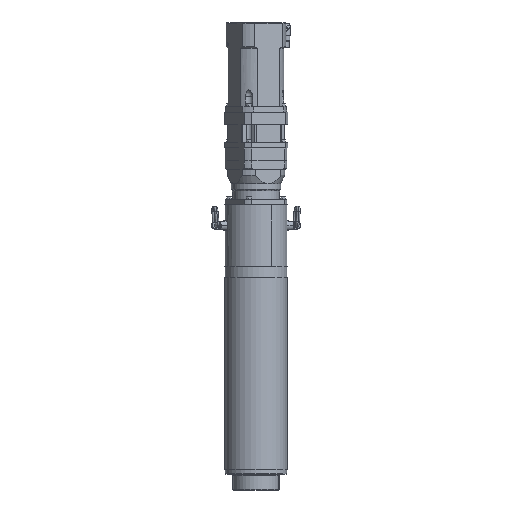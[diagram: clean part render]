
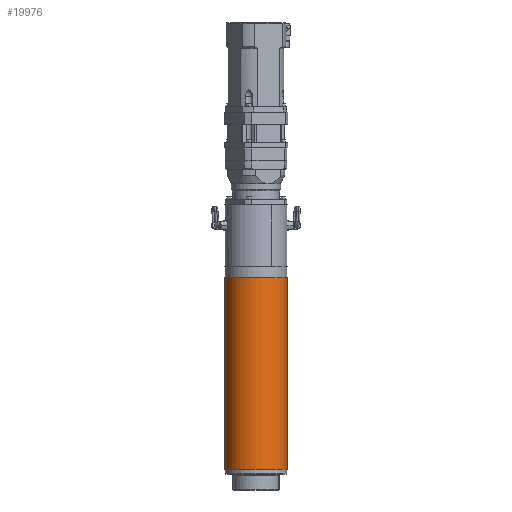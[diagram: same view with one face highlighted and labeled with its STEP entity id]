
A CAD part, front view. The second image highlights one B-rep face of the part: STEP entity #19976.
In plain terms, the highlighted cylindrical face has radius 120 mm (diameter 240 mm), a partial arc.
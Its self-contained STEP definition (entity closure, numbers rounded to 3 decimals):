
#400 = EDGE_CURVE ( 'NONE', #43105, #29189, #30935, .T. ) ;
#895 = EDGE_CURVE ( 'NONE', #33168, #34871, #25542, .T. ) ;
#3550 = DIRECTION ( 'NONE',  ( -1., 0., 0. ) ) ;
#7056 = CARTESIAN_POINT ( 'NONE',  ( 120., 0., 0. ) ) ;
#7583 = CARTESIAN_POINT ( 'NONE',  ( -120., 0., 0. ) ) ;
#8248 = CARTESIAN_POINT ( 'NONE',  ( 120., 0., 20. ) ) ;
#11393 = DIRECTION ( 'NONE',  ( 0., 0., -1. ) ) ;
#11971 = CARTESIAN_POINT ( 'NONE',  ( -120., 0., 20. ) ) ;
#12657 = ORIENTED_EDGE ( 'NONE', *, *, #25422, .T. ) ;
#14469 = CARTESIAN_POINT ( 'NONE',  ( 120., 0., 764. ) ) ;
#15690 = LINE ( 'NONE', #7583, #34584 ) ;
#17398 = VECTOR ( 'NONE', #33402, 1000. ) ;
#17736 = DIRECTION ( 'NONE',  ( 0., 0., -1. ) ) ;
#18936 = CARTESIAN_POINT ( 'NONE',  ( 0., 0., 0. ) ) ;
#19613 = EDGE_LOOP ( 'NONE', ( #35371, #35491, #12657, #32546 ) ) ;
#19976 = ADVANCED_FACE ( 'NONE', ( #25038 ), #44120, .T. ) ;
#22671 = DIRECTION ( 'NONE',  ( -1., 0., 0. ) ) ;
#24128 = AXIS2_PLACEMENT_3D ( 'NONE', #18936, #30153, #22671 ) ;
#25038 = FACE_OUTER_BOUND ( 'NONE', #19613, .T. ) ;
#25422 = EDGE_CURVE ( 'NONE', #29189, #34871, #15690, .T. ) ;
#25542 = CIRCLE ( 'NONE', #45080, 120. ) ;
#25999 = CARTESIAN_POINT ( 'NONE',  ( 0., 0., 764. ) ) ;
#29189 = VERTEX_POINT ( 'NONE', #37845 ) ;
#30153 = DIRECTION ( 'NONE',  ( 0., 0., -1. ) ) ;
#30935 = CIRCLE ( 'NONE', #41486, 120. ) ;
#30947 = LINE ( 'NONE', #7056, #17398 ) ;
#31103 = EDGE_CURVE ( 'NONE', #43105, #33168, #30947, .T. ) ;
#32546 = ORIENTED_EDGE ( 'NONE', *, *, #895, .F. ) ;
#33168 = VERTEX_POINT ( 'NONE', #8248 ) ;
#33402 = DIRECTION ( 'NONE',  ( 0., 0., -1. ) ) ;
#34584 = VECTOR ( 'NONE', #11393, 1000. ) ;
#34871 = VERTEX_POINT ( 'NONE', #11971 ) ;
#35371 = ORIENTED_EDGE ( 'NONE', *, *, #31103, .F. ) ;
#35491 = ORIENTED_EDGE ( 'NONE', *, *, #400, .T. ) ;
#36210 = DIRECTION ( 'NONE',  ( 0., 0., -1. ) ) ;
#37845 = CARTESIAN_POINT ( 'NONE',  ( -120., 0., 764. ) ) ;
#40407 = DIRECTION ( 'NONE',  ( -1., 0., 0. ) ) ;
#41486 = AXIS2_PLACEMENT_3D ( 'NONE', #25999, #36210, #3550 ) ;
#43105 = VERTEX_POINT ( 'NONE', #14469 ) ;
#44120 = CYLINDRICAL_SURFACE ( 'NONE', #24128, 120. ) ;
#44223 = CARTESIAN_POINT ( 'NONE',  ( 0., 0., 20. ) ) ;
#45080 = AXIS2_PLACEMENT_3D ( 'NONE', #44223, #17736, #40407 ) ;
